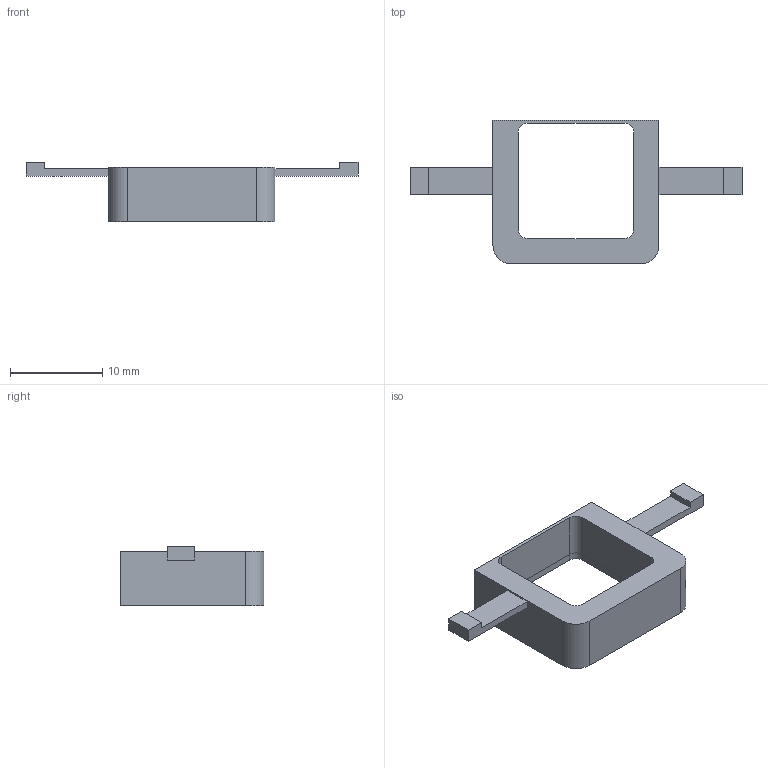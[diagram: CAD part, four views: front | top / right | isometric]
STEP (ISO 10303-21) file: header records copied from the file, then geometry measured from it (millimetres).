
FILE_DESCRIPTION(('Open CASCADE Model'),'2;1');
FILE_NAME('Open CASCADE Shape Model','2026-09-04T20:58:22',('Author'),( 'Open CASCADE'),'Open CASCADE STEP processor 7.7','Open CASCADE 7.7' ,'Unknown');
FILE_SCHEMA(('AUTOMOTIVE_DESIGN { 1 0 10303 214 1 1 1 1 }'));
Length unit declared in the file: millimetre
Products named in the file (1): Open CASCADE STEP translator 7.7 23
Bounding box: 36 x 15.6 x 6.45 mm (x, y, z)
Volume: 768.6 mm3; surface area: 1071.4 mm2
Topology: 1 solids, 1 shells, 39 faces, 102 edges, 68 vertices
Faces by surface type: plane 29, cylinder 10
Entity records: 2542 total; most frequent: CARTESIAN_POINT 426, DIRECTION 404, LINE 266, VECTOR 266, ORIENTED_EDGE 204, PCURVE 204, DEFINITIONAL_REPRESENTATION 204, EDGE_CURVE 102
